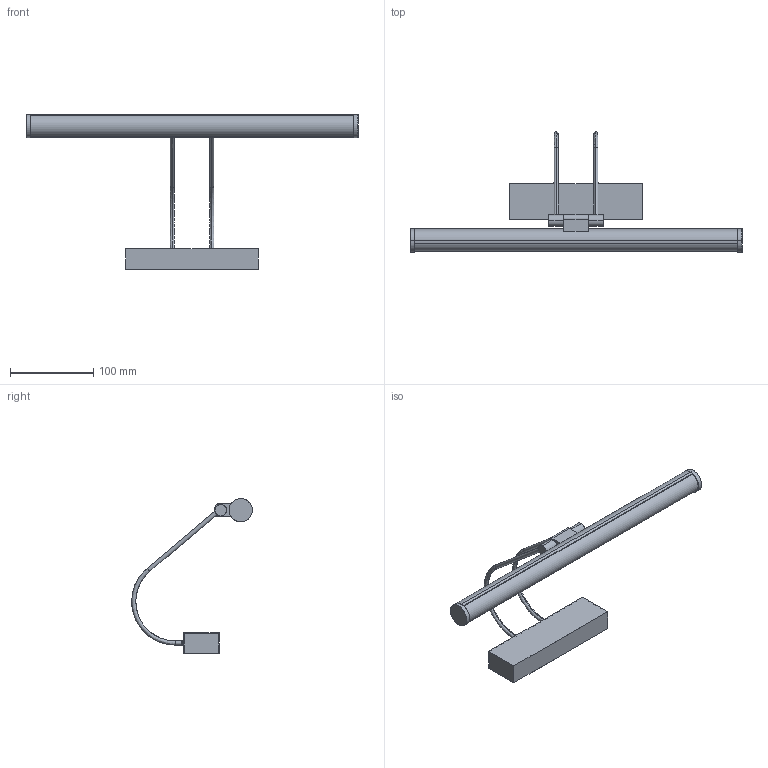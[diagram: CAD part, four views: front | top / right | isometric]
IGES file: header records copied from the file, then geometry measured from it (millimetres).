
Start section: SolidWorks IGES file using analytic representation for surfaces
Global section: file name: F:\燠隴矨\3D\2026-3\Aureon Linear Rechargeable Wall Light.IGS,15; native system: HSolidWorks 2022; preprocessor: SolidWorks 2022; author: MyPC; date: 260326.091252; units: millimetre
Bounding box: 400 x 145.3 x 186.5 mm (x, y, z)
Surface area: 84417.3 mm2 (no closed solid volume)
Topology: 0 solids, 0 shells, 67 faces, 882 edges, 882 vertices
Faces by surface type: bspline 44, revolution 23
